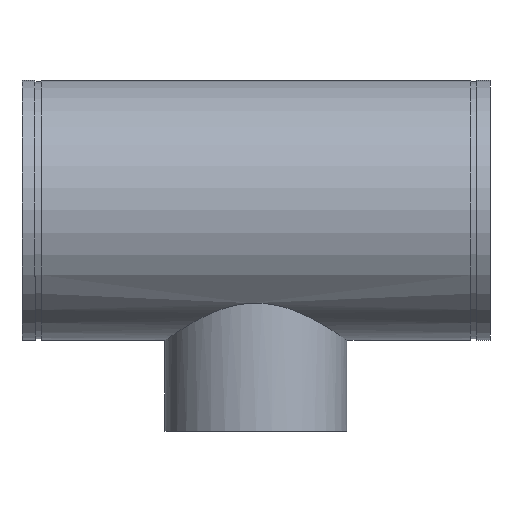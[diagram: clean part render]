
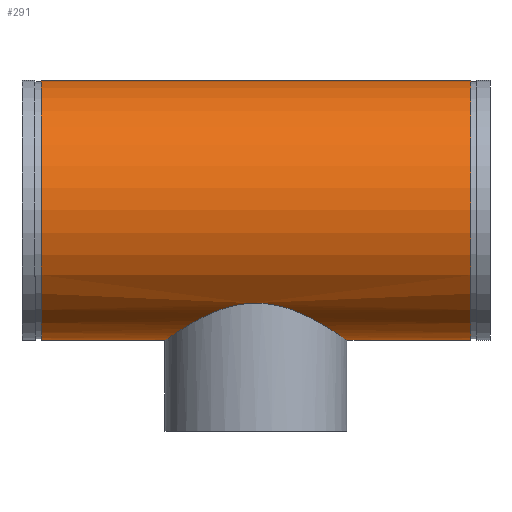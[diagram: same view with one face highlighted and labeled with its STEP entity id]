
A CAD part, top view. The second image highlights one B-rep face of the part: STEP entity #291.
In plain terms, the highlighted cylindrical face has radius 254 mm (diameter 508 mm), a full revolution.
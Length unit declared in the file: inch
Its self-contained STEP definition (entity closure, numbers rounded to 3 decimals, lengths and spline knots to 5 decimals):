
#45=B_SPLINE_CURVE_WITH_KNOTS('',3,(#511,#512,#513,#514,#515,#516,#517,
#518,#519,#520,#521,#522,#523,#524,#525,#526,#527,#528,#529,#530,#531,#532,
#533,#534,#535,#536,#537,#538,#539,#540,#541,#542,#543,#544,#545,#546,#547,
#548,#549,#550,#551,#552,#553,#554,#555,#556,#557,#558,#559,#560,#561,#562,
#563,#564,#565,#566,#567,#568,#569,#570,#571,#572,#573,#574,#575,#576,#577,
#578),.UNSPECIFIED.,.F.,.F.,(4,2,2,2,2,2,2,2,2,2,2,2,2,2,2,2,2,2,2,2,2,
2,2,2,2,2,2,2,2,2,2,2,2,4),(0.,1.76668,3.53336,7.06673,
10.60009,14.13346,17.61639,21.09933,22.84079,
24.58226,26.32373,28.06519,29.80666,31.54813,
33.2896,35.03106,38.514,41.99693,45.5303,
49.06366,52.59703,54.36371,56.13039,57.89707,
59.66375,63.19712,66.73048,70.26385,73.74678,
77.22972,78.97118,80.71265,82.45412,84.19558),
 .UNSPECIFIED.);
#46=B_SPLINE_CURVE_WITH_KNOTS('',3,(#579,#580,#581,#582,#583,#584,#585,
#586,#587,#588,#589,#590,#591,#592,#593,#594,#595,#596,#597,#598,#599,#600,
#601,#602),.UNSPECIFIED.,.F.,.F.,(4,2,2,2,2,2,2,2,2,2,2,4),(84.19558,
85.93705,87.67852,89.41999,91.16145,94.64439,
98.12732,101.66069,105.19405,108.72742,110.4941,
112.26078),.UNSPECIFIED.);
#51=LINE('',#508,#59);
#59=VECTOR('',#410,10.);
#67=CYLINDRICAL_SURFACE('',#338,10.);
#77=FACE_BOUND('',#108,.T.);
#88=FACE_OUTER_BOUND('',#107,.T.);
#107=EDGE_LOOP('',(#221,#222,#223,#224));
#108=EDGE_LOOP('',(#225,#226));
#121=CIRCLE('',#321,10.);
#132=CIRCLE('',#337,10.);
#141=VERTEX_POINT('',#476);
#152=VERTEX_POINT('',#505);
#153=VERTEX_POINT('',#509);
#154=VERTEX_POINT('',#510);
#165=EDGE_CURVE('',#141,#141,#121,.T.);
#178=EDGE_CURVE('',#152,#152,#132,.T.);
#179=EDGE_CURVE('',#152,#141,#51,.T.);
#180=EDGE_CURVE('',#153,#154,#45,.T.);
#181=EDGE_CURVE('',#154,#153,#46,.T.);
#221=ORIENTED_EDGE('',*,*,#178,.T.);
#222=ORIENTED_EDGE('',*,*,#179,.T.);
#223=ORIENTED_EDGE('',*,*,#165,.T.);
#224=ORIENTED_EDGE('',*,*,#179,.F.);
#225=ORIENTED_EDGE('',*,*,#180,.F.);
#226=ORIENTED_EDGE('',*,*,#181,.F.);
#291=ADVANCED_FACE('',(#88,#77),#67,.T.);
#321=AXIS2_PLACEMENT_3D('',#477,#372,#373);
#337=AXIS2_PLACEMENT_3D('',#506,#406,#407);
#338=AXIS2_PLACEMENT_3D('',#507,#408,#409);
#372=DIRECTION('center_axis',(-1.,0.,0.));
#373=DIRECTION('ref_axis',(0.,-1.,0.));
#406=DIRECTION('center_axis',(1.,0.,0.));
#407=DIRECTION('ref_axis',(0.,-1.,0.));
#408=DIRECTION('center_axis',(-1.,0.,0.));
#409=DIRECTION('ref_axis',(0.,-1.,0.));
#410=DIRECTION('',(1.,0.,0.));
#476=CARTESIAN_POINT('',(16.5,10.,0.));
#477=CARTESIAN_POINT('Origin',(16.5,0.,0.));
#505=CARTESIAN_POINT('',(-16.5,10.,0.));
#506=CARTESIAN_POINT('Origin',(-16.5,0.,0.));
#507=CARTESIAN_POINT('Origin',(18.,0.,0.));
#508=CARTESIAN_POINT('',(18.,10.,0.));
#509=CARTESIAN_POINT('',(0.,-7.14143,-7.));
#510=CARTESIAN_POINT('',(-7.,-10.,0.));
#511=CARTESIAN_POINT('Ctrl Pts',(0.,-7.14143,
-7.));
#512=CARTESIAN_POINT('Ctrl Pts',(0.23185,-7.14143,-7.));
#513=CARTESIAN_POINT('Ctrl Pts',(0.46508,-7.15281,-6.98844));
#514=CARTESIAN_POINT('Ctrl Pts',(0.93027,-7.19804,-6.94185));
#515=CARTESIAN_POINT('Ctrl Pts',(1.16222,-7.23188,-6.90681));
#516=CARTESIAN_POINT('Ctrl Pts',(1.85046,-7.36352,-6.7672));
#517=CARTESIAN_POINT('Ctrl Pts',(2.29916,-7.49184,-6.62781));
#518=CARTESIAN_POINT('Ctrl Pts',(3.1515,-7.79573,-6.26755));
#519=CARTESIAN_POINT('Ctrl Pts',(3.55604,-7.97109,-6.04635));
#520=CARTESIAN_POINT('Ctrl Pts',(4.3031,-8.33124,-5.53959));
#521=CARTESIAN_POINT('Ctrl Pts',(4.64561,-8.51582,-5.25388));
#522=CARTESIAN_POINT('Ctrl Pts',(5.24954,-8.85985,-4.64995));
#523=CARTESIAN_POINT('Ctrl Pts',(5.53439,-9.03275,-4.30983));
#524=CARTESIAN_POINT('Ctrl Pts',(6.04251,-9.3527,-3.56262));
#525=CARTESIAN_POINT('Ctrl Pts',(6.2658,-9.49958,-3.15548));
#526=CARTESIAN_POINT('Ctrl Pts',(6.53808,-9.68204,-2.51154));
#527=CARTESIAN_POINT('Ctrl Pts',(6.61858,-9.73668,-2.29118));
#528=CARTESIAN_POINT('Ctrl Pts',(6.75719,-9.83143,-1.84269));
#529=CARTESIAN_POINT('Ctrl Pts',(6.8153,-9.87153,-1.61455));
#530=CARTESIAN_POINT('Ctrl Pts',(6.90811,-9.93583,-1.1546));
#531=CARTESIAN_POINT('Ctrl Pts',(6.94281,-9.96004,-0.92275));
#532=CARTESIAN_POINT('Ctrl Pts',(6.98876,-9.99212,-0.45972));
#533=CARTESIAN_POINT('Ctrl Pts',(7.,-10.,-0.22854));
#534=CARTESIAN_POINT('Ctrl Pts',(7.,-10.,0.22854));
#535=CARTESIAN_POINT('Ctrl Pts',(6.98876,-9.99212,0.45972));
#536=CARTESIAN_POINT('Ctrl Pts',(6.94281,-9.96004,0.92275));
#537=CARTESIAN_POINT('Ctrl Pts',(6.90811,-9.93583,1.1546));
#538=CARTESIAN_POINT('Ctrl Pts',(6.8153,-9.87153,1.61455));
#539=CARTESIAN_POINT('Ctrl Pts',(6.75719,-9.83143,1.84269));
#540=CARTESIAN_POINT('Ctrl Pts',(6.61858,-9.73668,2.29118));
#541=CARTESIAN_POINT('Ctrl Pts',(6.53808,-9.68204,2.51154));
#542=CARTESIAN_POINT('Ctrl Pts',(6.2658,-9.49958,3.15548));
#543=CARTESIAN_POINT('Ctrl Pts',(6.04251,-9.3527,3.56262));
#544=CARTESIAN_POINT('Ctrl Pts',(5.53439,-9.03275,4.30983));
#545=CARTESIAN_POINT('Ctrl Pts',(5.24954,-8.85985,4.64995));
#546=CARTESIAN_POINT('Ctrl Pts',(4.64561,-8.51582,5.25388));
#547=CARTESIAN_POINT('Ctrl Pts',(4.3031,-8.33124,5.53959));
#548=CARTESIAN_POINT('Ctrl Pts',(3.55604,-7.97109,6.04635));
#549=CARTESIAN_POINT('Ctrl Pts',(3.1515,-7.79573,6.26755));
#550=CARTESIAN_POINT('Ctrl Pts',(2.29916,-7.49184,6.62781));
#551=CARTESIAN_POINT('Ctrl Pts',(1.85046,-7.36352,6.7672));
#552=CARTESIAN_POINT('Ctrl Pts',(1.16222,-7.23188,6.90681));
#553=CARTESIAN_POINT('Ctrl Pts',(0.93027,-7.19804,6.94185));
#554=CARTESIAN_POINT('Ctrl Pts',(0.46508,-7.15281,6.98844));
#555=CARTESIAN_POINT('Ctrl Pts',(0.23185,-7.14143,7.));
#556=CARTESIAN_POINT('Ctrl Pts',(-0.23185,-7.14143,7.));
#557=CARTESIAN_POINT('Ctrl Pts',(-0.46508,-7.15281,6.98844));
#558=CARTESIAN_POINT('Ctrl Pts',(-0.93027,-7.19804,6.94185));
#559=CARTESIAN_POINT('Ctrl Pts',(-1.16222,-7.23188,6.90681));
#560=CARTESIAN_POINT('Ctrl Pts',(-1.85046,-7.36352,6.7672));
#561=CARTESIAN_POINT('Ctrl Pts',(-2.29916,-7.49184,6.62781));
#562=CARTESIAN_POINT('Ctrl Pts',(-3.1515,-7.79573,6.26755));
#563=CARTESIAN_POINT('Ctrl Pts',(-3.55604,-7.97109,6.04635));
#564=CARTESIAN_POINT('Ctrl Pts',(-4.3031,-8.33124,5.53959));
#565=CARTESIAN_POINT('Ctrl Pts',(-4.64561,-8.51582,5.25388));
#566=CARTESIAN_POINT('Ctrl Pts',(-5.24954,-8.85985,4.64995));
#567=CARTESIAN_POINT('Ctrl Pts',(-5.53439,-9.03275,4.30983));
#568=CARTESIAN_POINT('Ctrl Pts',(-6.04251,-9.3527,3.56262));
#569=CARTESIAN_POINT('Ctrl Pts',(-6.2658,-9.49958,3.15548));
#570=CARTESIAN_POINT('Ctrl Pts',(-6.53808,-9.68204,2.51154));
#571=CARTESIAN_POINT('Ctrl Pts',(-6.61858,-9.73668,2.29118));
#572=CARTESIAN_POINT('Ctrl Pts',(-6.75719,-9.83143,1.84269));
#573=CARTESIAN_POINT('Ctrl Pts',(-6.8153,-9.87153,1.61455));
#574=CARTESIAN_POINT('Ctrl Pts',(-6.90811,-9.93583,1.1546));
#575=CARTESIAN_POINT('Ctrl Pts',(-6.94281,-9.96004,0.92275));
#576=CARTESIAN_POINT('Ctrl Pts',(-6.98876,-9.99212,0.45972));
#577=CARTESIAN_POINT('Ctrl Pts',(-7.,-10.,0.22854));
#578=CARTESIAN_POINT('Ctrl Pts',(-7.,-10.,0.));
#579=CARTESIAN_POINT('Ctrl Pts',(-7.,-10.,0.));
#580=CARTESIAN_POINT('Ctrl Pts',(-7.,-10.,-0.22854));
#581=CARTESIAN_POINT('Ctrl Pts',(-6.98876,-9.99212,-0.45972));
#582=CARTESIAN_POINT('Ctrl Pts',(-6.94281,-9.96004,-0.92275));
#583=CARTESIAN_POINT('Ctrl Pts',(-6.90811,-9.93583,-1.1546));
#584=CARTESIAN_POINT('Ctrl Pts',(-6.8153,-9.87153,-1.61455));
#585=CARTESIAN_POINT('Ctrl Pts',(-6.75719,-9.83143,-1.84269));
#586=CARTESIAN_POINT('Ctrl Pts',(-6.61858,-9.73668,-2.29118));
#587=CARTESIAN_POINT('Ctrl Pts',(-6.53808,-9.68204,-2.51154));
#588=CARTESIAN_POINT('Ctrl Pts',(-6.2658,-9.49958,-3.15548));
#589=CARTESIAN_POINT('Ctrl Pts',(-6.04251,-9.3527,-3.56262));
#590=CARTESIAN_POINT('Ctrl Pts',(-5.53439,-9.03275,-4.30983));
#591=CARTESIAN_POINT('Ctrl Pts',(-5.24954,-8.85985,-4.64995));
#592=CARTESIAN_POINT('Ctrl Pts',(-4.64561,-8.51582,-5.25388));
#593=CARTESIAN_POINT('Ctrl Pts',(-4.3031,-8.33124,-5.53959));
#594=CARTESIAN_POINT('Ctrl Pts',(-3.55604,-7.97109,-6.04635));
#595=CARTESIAN_POINT('Ctrl Pts',(-3.1515,-7.79573,-6.26755));
#596=CARTESIAN_POINT('Ctrl Pts',(-2.29916,-7.49184,-6.62781));
#597=CARTESIAN_POINT('Ctrl Pts',(-1.85046,-7.36352,-6.7672));
#598=CARTESIAN_POINT('Ctrl Pts',(-1.16222,-7.23188,-6.90681));
#599=CARTESIAN_POINT('Ctrl Pts',(-0.93027,-7.19804,-6.94185));
#600=CARTESIAN_POINT('Ctrl Pts',(-0.46508,-7.15281,-6.98844));
#601=CARTESIAN_POINT('Ctrl Pts',(-0.23185,-7.14143,-7.));
#602=CARTESIAN_POINT('Ctrl Pts',(0.,-7.14143,-7.));
